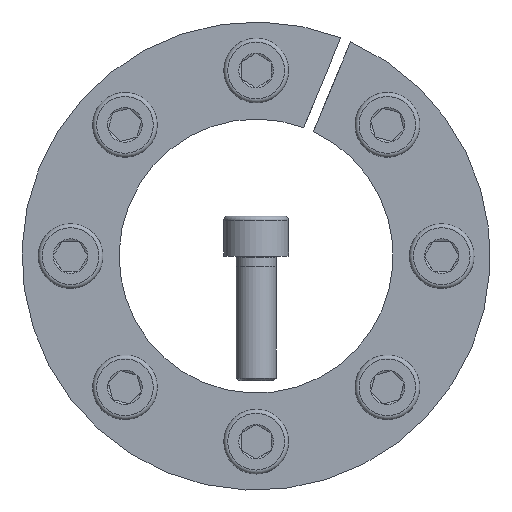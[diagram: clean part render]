
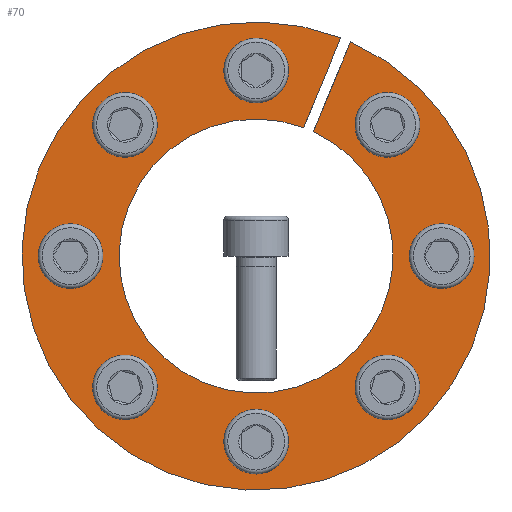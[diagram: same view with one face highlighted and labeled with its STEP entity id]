
A CAD part, front view. The second image highlights one B-rep face of the part: STEP entity #70.
In plain terms, the highlighted planar face has unit normal (0, -1, 0).
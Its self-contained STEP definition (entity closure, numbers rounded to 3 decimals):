
#70 = ADVANCED_FACE( '', ( #157, #158, #159, #160, #161, #162, #163, #164, #165 ), #166, .F. );
#157 = FACE_BOUND( '', #319, .T. );
#158 = FACE_BOUND( '', #320, .T. );
#159 = FACE_BOUND( '', #321, .T. );
#160 = FACE_BOUND( '', #322, .T. );
#161 = FACE_BOUND( '', #323, .T. );
#162 = FACE_BOUND( '', #324, .T. );
#163 = FACE_BOUND( '', #325, .T. );
#164 = FACE_BOUND( '', #326, .T. );
#165 = FACE_OUTER_BOUND( '', #327, .T. );
#166 = PLANE( '', #328 );
#319 = EDGE_LOOP( '', ( #504 ) );
#320 = EDGE_LOOP( '', ( #505 ) );
#321 = EDGE_LOOP( '', ( #506 ) );
#322 = EDGE_LOOP( '', ( #507 ) );
#323 = EDGE_LOOP( '', ( #508 ) );
#324 = EDGE_LOOP( '', ( #509 ) );
#325 = EDGE_LOOP( '', ( #510 ) );
#326 = EDGE_LOOP( '', ( #511 ) );
#327 = EDGE_LOOP( '', ( #512, #513, #514, #515 ) );
#328 = AXIS2_PLACEMENT_3D( '', #516, #517, #518 );
#504 = ORIENTED_EDGE( '', *, *, #801, .T. );
#505 = ORIENTED_EDGE( '', *, *, #802, .T. );
#506 = ORIENTED_EDGE( '', *, *, #803, .T. );
#507 = ORIENTED_EDGE( '', *, *, #804, .T. );
#508 = ORIENTED_EDGE( '', *, *, #805, .T. );
#509 = ORIENTED_EDGE( '', *, *, #806, .T. );
#510 = ORIENTED_EDGE( '', *, *, #807, .T. );
#511 = ORIENTED_EDGE( '', *, *, #808, .T. );
#512 = ORIENTED_EDGE( '', *, *, #809, .T. );
#513 = ORIENTED_EDGE( '', *, *, #810, .T. );
#514 = ORIENTED_EDGE( '', *, *, #811, .T. );
#515 = ORIENTED_EDGE( '', *, *, #812, .F. );
#516 = CARTESIAN_POINT( '', ( 0., 0., 47. ) );
#517 = DIRECTION( '', ( 0., 1., 0. ) );
#518 = DIRECTION( '', ( 0., 0., 1. ) );
#801 = EDGE_CURVE( '', #952, #952, #953, .T. );
#802 = EDGE_CURVE( '', #954, #954, #955, .T. );
#803 = EDGE_CURVE( '', #956, #956, #957, .T. );
#804 = EDGE_CURVE( '', #958, #958, #959, .T. );
#805 = EDGE_CURVE( '', #960, #960, #961, .T. );
#806 = EDGE_CURVE( '', #962, #962, #963, .T. );
#807 = EDGE_CURVE( '', #964, #964, #965, .T. );
#808 = EDGE_CURVE( '', #966, #966, #967, .T. );
#809 = EDGE_CURVE( '', #968, #969, #970, .T. );
#810 = EDGE_CURVE( '', #969, #971, #972, .T. );
#811 = EDGE_CURVE( '', #971, #973, #974, .T. );
#812 = EDGE_CURVE( '', #968, #973, #975, .T. );
#952 = VERTEX_POINT( '', #1239 );
#953 = CIRCLE( '', #1240, 4. );
#954 = VERTEX_POINT( '', #1241 );
#955 = CIRCLE( '', #1242, 4. );
#956 = VERTEX_POINT( '', #1243 );
#957 = CIRCLE( '', #1244, 4. );
#958 = VERTEX_POINT( '', #1245 );
#959 = CIRCLE( '', #1246, 4. );
#960 = VERTEX_POINT( '', #1247 );
#961 = CIRCLE( '', #1248, 4. );
#962 = VERTEX_POINT( '', #1249 );
#963 = CIRCLE( '', #1250, 4. );
#964 = VERTEX_POINT( '', #1251 );
#965 = CIRCLE( '', #1252, 4. );
#966 = VERTEX_POINT( '', #1253 );
#967 = CIRCLE( '', #1254, 4. );
#968 = VERTEX_POINT( '', #1255 );
#969 = VERTEX_POINT( '', #1256 );
#970 = LINE( '', #1257, #1258 );
#971 = VERTEX_POINT( '', #1259 );
#972 = CIRCLE( '', #1260, 47. );
#973 = VERTEX_POINT( '', #1261 );
#974 = LINE( '', #1262, #1263 );
#975 = CIRCLE( '', #1264, 27.5 );
#1239 = CARTESIAN_POINT( '', ( -23.511, 0., 29.168 ) );
#1240 = AXIS2_PLACEMENT_3D( '', #1443, #1444, #1445 );
#1241 = CARTESIAN_POINT( '', ( -29.168, 0., -23.511 ) );
#1242 = AXIS2_PLACEMENT_3D( '', #1446, #1447, #1448 );
#1243 = CARTESIAN_POINT( '', ( 23.511, 0., -29.168 ) );
#1244 = AXIS2_PLACEMENT_3D( '', #1449, #1450, #1451 );
#1245 = CARTESIAN_POINT( '', ( 29.168, 0., 23.511 ) );
#1246 = AXIS2_PLACEMENT_3D( '', #1452, #1453, #1454 );
#1247 = CARTESIAN_POINT( '', ( 4., 0., 37.25 ) );
#1248 = AXIS2_PLACEMENT_3D( '', #1455, #1456, #1457 );
#1249 = CARTESIAN_POINT( '', ( 37.25, 0., -4. ) );
#1250 = AXIS2_PLACEMENT_3D( '', #1458, #1459, #1460 );
#1251 = CARTESIAN_POINT( '', ( -4., 0., -37.25 ) );
#1252 = AXIS2_PLACEMENT_3D( '', #1461, #1462, #1463 );
#1253 = CARTESIAN_POINT( '', ( -37.25, 0., 4. ) );
#1254 = AXIS2_PLACEMENT_3D( '', #1464, #1465, #1466 );
#1255 = CARTESIAN_POINT( '', ( 9.534, 0., 25.794 ) );
#1256 = CARTESIAN_POINT( '', ( 17., 0., 43.818 ) );
#1257 = CARTESIAN_POINT( '', ( 9.534, 0., 25.794 ) );
#1258 = VECTOR( '', #1467, 1000. );
#1259 = CARTESIAN_POINT( '', ( 18.963, 0., 43.005 ) );
#1260 = AXIS2_PLACEMENT_3D( '', #1468, #1469, #1470 );
#1261 = CARTESIAN_POINT( '', ( 11.498, 0., 24.981 ) );
#1262 = CARTESIAN_POINT( '', ( 18.968, 0., 43.016 ) );
#1263 = VECTOR( '', #1471, 1000. );
#1264 = AXIS2_PLACEMENT_3D( '', #1472, #1473, #1474 );
#1443 = CARTESIAN_POINT( '', ( -26.34, 0., 26.34 ) );
#1444 = DIRECTION( '', ( 0., 1., 0. ) );
#1445 = DIRECTION( '', ( 0.707, 0., 0.707 ) );
#1446 = CARTESIAN_POINT( '', ( -26.34, 0., -26.34 ) );
#1447 = DIRECTION( '', ( 0., 1., 0. ) );
#1448 = DIRECTION( '', ( -0.707, 0., 0.707 ) );
#1449 = CARTESIAN_POINT( '', ( 26.34, 0., -26.34 ) );
#1450 = DIRECTION( '', ( 0., 1., 0. ) );
#1451 = DIRECTION( '', ( -0.707, 0., -0.707 ) );
#1452 = CARTESIAN_POINT( '', ( 26.34, 0., 26.34 ) );
#1453 = DIRECTION( '', ( 0., 1., 0. ) );
#1454 = DIRECTION( '', ( 0.707, 0., -0.707 ) );
#1455 = CARTESIAN_POINT( '', ( 0., 0., 37.25 ) );
#1456 = DIRECTION( '', ( 0., 1., 0. ) );
#1457 = DIRECTION( '', ( 1., 0., 0. ) );
#1458 = CARTESIAN_POINT( '', ( 37.25, 0., 0. ) );
#1459 = DIRECTION( '', ( 0., 1., 0. ) );
#1460 = DIRECTION( '', ( 0., 0., -1. ) );
#1461 = CARTESIAN_POINT( '', ( 0., 0., -37.25 ) );
#1462 = DIRECTION( '', ( 0., 1., 0. ) );
#1463 = DIRECTION( '', ( -1., 0., 0. ) );
#1464 = CARTESIAN_POINT( '', ( -37.25, 0., 0. ) );
#1465 = DIRECTION( '', ( 0., 1., 0. ) );
#1466 = DIRECTION( '', ( 0., 0., 1. ) );
#1467 = DIRECTION( '', ( 0.383, 0., 0.924 ) );
#1468 = CARTESIAN_POINT( '', ( 0., 0., 0. ) );
#1469 = DIRECTION( '', ( 0., -1., 0. ) );
#1470 = DIRECTION( '', ( 0., 0., -1. ) );
#1471 = DIRECTION( '', ( -0.383, 0., -0.924 ) );
#1472 = CARTESIAN_POINT( '', ( 0., 0., 0. ) );
#1473 = DIRECTION( '', ( 0., -1., 0. ) );
#1474 = DIRECTION( '', ( 0., 0., -1. ) );
